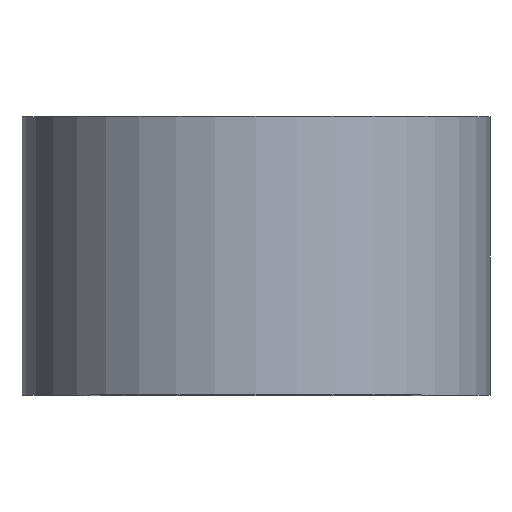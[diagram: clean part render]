
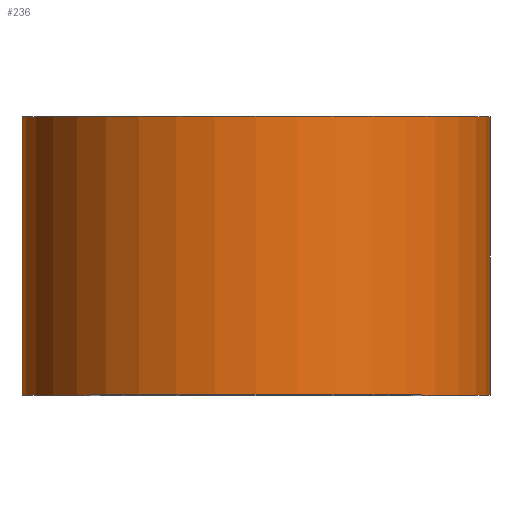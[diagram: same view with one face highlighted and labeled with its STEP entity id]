
A CAD part, top view. The second image highlights one B-rep face of the part: STEP entity #236.
In plain terms, the highlighted cylindrical face has radius 21 mm (diameter 42 mm), a partial arc.
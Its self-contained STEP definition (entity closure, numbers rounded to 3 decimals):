
#8 = LINE ( 'NONE', #63, #43 ) ;
#9 = CARTESIAN_POINT ( 'NONE',  ( -21., 25., 0. ) ) ;
#10 = CARTESIAN_POINT ( 'NONE',  ( 0., 0., 0. ) ) ;
#18 = EDGE_CURVE ( 'NONE', #270, #291, #194, .T. ) ;
#24 = EDGE_CURVE ( 'NONE', #299, #291, #278, .T. ) ;
#41 = FACE_OUTER_BOUND ( 'NONE', #253, .T. ) ;
#43 = VECTOR ( 'NONE', #113, 1000. ) ;
#55 = EDGE_CURVE ( 'NONE', #209, #270, #8, .T. ) ;
#63 = CARTESIAN_POINT ( 'NONE',  ( -21., 0., 0. ) ) ;
#76 = DIRECTION ( 'NONE',  ( 0., 1., 0. ) ) ;
#80 = DIRECTION ( 'NONE',  ( 0., 1., 0. ) ) ;
#84 = CARTESIAN_POINT ( 'NONE',  ( -21., 0., 0. ) ) ;
#90 = EDGE_CURVE ( 'NONE', #209, #299, #252, .T. ) ;
#108 = DIRECTION ( 'NONE',  ( 0., 1., 0. ) ) ;
#113 = DIRECTION ( 'NONE',  ( 0., 1., 0. ) ) ;
#121 = ORIENTED_EDGE ( 'NONE', *, *, #90, .T. ) ;
#132 = DIRECTION ( 'NONE',  ( -1., 0., 0. ) ) ;
#139 = CARTESIAN_POINT ( 'NONE',  ( 21., 0., 0. ) ) ;
#141 = AXIS2_PLACEMENT_3D ( 'NONE', #212, #76, #231 ) ;
#160 = AXIS2_PLACEMENT_3D ( 'NONE', #175, #108, #132 ) ;
#175 = CARTESIAN_POINT ( 'NONE',  ( 0., 0., 0. ) ) ;
#179 = DIRECTION ( 'NONE',  ( -1., 0., 0. ) ) ;
#180 = ORIENTED_EDGE ( 'NONE', *, *, #24, .T. ) ;
#191 = CARTESIAN_POINT ( 'NONE',  ( 21., 0., 0. ) ) ;
#194 = CIRCLE ( 'NONE', #141, 21. ) ;
#209 = VERTEX_POINT ( 'NONE', #84 ) ;
#211 = ORIENTED_EDGE ( 'NONE', *, *, #18, .F. ) ;
#212 = CARTESIAN_POINT ( 'NONE',  ( 0., 25., 0. ) ) ;
#223 = ORIENTED_EDGE ( 'NONE', *, *, #55, .F. ) ;
#231 = DIRECTION ( 'NONE',  ( -1., 0., 0. ) ) ;
#236 = ADVANCED_FACE ( 'NONE', ( #41 ), #274, .T. ) ;
#243 = DIRECTION ( 'NONE',  ( 0., 1., 0. ) ) ;
#252 = CIRCLE ( 'NONE', #160, 21. ) ;
#253 = EDGE_LOOP ( 'NONE', ( #121, #180, #211, #223 ) ) ;
#270 = VERTEX_POINT ( 'NONE', #9 ) ;
#274 = CYLINDRICAL_SURFACE ( 'NONE', #284, 21. ) ;
#278 = LINE ( 'NONE', #191, #285 ) ;
#284 = AXIS2_PLACEMENT_3D ( 'NONE', #10, #243, #179 ) ;
#285 = VECTOR ( 'NONE', #80, 1000. ) ;
#291 = VERTEX_POINT ( 'NONE', #292 ) ;
#292 = CARTESIAN_POINT ( 'NONE',  ( 21., 25., 0. ) ) ;
#299 = VERTEX_POINT ( 'NONE', #139 ) ;
